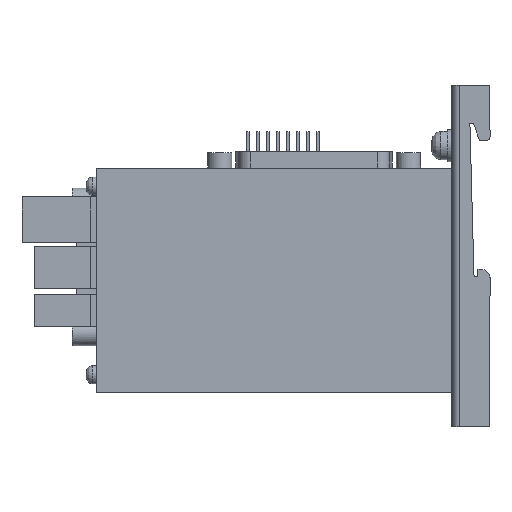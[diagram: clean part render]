
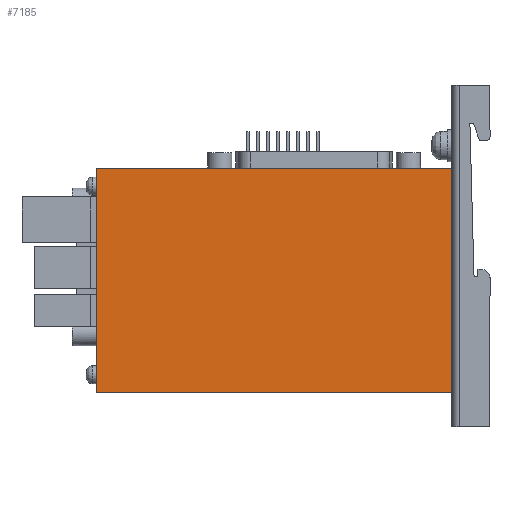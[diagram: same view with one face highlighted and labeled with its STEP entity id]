
A CAD part, front view. The second image highlights one B-rep face of the part: STEP entity #7185.
In plain terms, the highlighted planar face has unit normal (0, -1, 0).
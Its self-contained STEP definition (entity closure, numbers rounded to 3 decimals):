
#3191=CARTESIAN_POINT('',(88.5,-43.,56.));
#3192=VERTEX_POINT('',#3191);
#3199=CARTESIAN_POINT('',(88.5,-43.,0.0));
#3200=VERTEX_POINT('',#3199);
#3201=CARTESIAN_POINT('',(88.5,-43.,0.0));
#3202=DIRECTION('',(0.0,0.0,1.0));
#3203=VECTOR('',#3202,56.);
#3204=LINE('',#3201,#3203);
#3205=EDGE_CURVE('',#3200,#3192,#3204,.T.);
#5138=CARTESIAN_POINT('',(0.,-43.0,56.));
#5139=VERTEX_POINT('',#5138);
#5146=CARTESIAN_POINT('',(88.5,-43.,56.));
#5147=DIRECTION('',(-1.0,0.0,0.0));
#5148=VECTOR('',#5147,88.5);
#5149=LINE('',#5146,#5148);
#5150=EDGE_CURVE('',#3192,#5139,#5149,.T.);
#5951=CARTESIAN_POINT('',(0.,-43.0,0.0));
#5952=VERTEX_POINT('',#5951);
#5959=CARTESIAN_POINT('',(0.,-43.0,0.0));
#5960=DIRECTION('',(0.0,0.0,1.0));
#5961=VECTOR('',#5960,56.);
#5962=LINE('',#5959,#5961);
#5963=EDGE_CURVE('',#5952,#5139,#5962,.T.);
#7169=CARTESIAN_POINT('',(88.5,-43.,0.0));
#7170=DIRECTION('',(0.0,-1.0,0.0));
#7171=DIRECTION('',(0.0,0.0,-1.0));
#7172=AXIS2_PLACEMENT_3D('',#7169,#7170,#7171);
#7173=PLANE('',#7172);
#7174=ORIENTED_EDGE('',*,*,#5150,.T.);
#7175=ORIENTED_EDGE('',*,*,#5963,.F.);
#7176=CARTESIAN_POINT('',(88.5,-43.,0.0));
#7177=DIRECTION('',(-1.0,0.0,0.0));
#7178=VECTOR('',#7177,88.5);
#7179=LINE('',#7176,#7178);
#7180=EDGE_CURVE('',#3200,#5952,#7179,.T.);
#7181=ORIENTED_EDGE('',*,*,#7180,.F.);
#7182=ORIENTED_EDGE('',*,*,#3205,.T.);
#7183=EDGE_LOOP('',(#7174,#7175,#7181,#7182));
#7184=FACE_OUTER_BOUND('',#7183,.T.);
#7185=ADVANCED_FACE('',(#7184),#7173,.T.);
